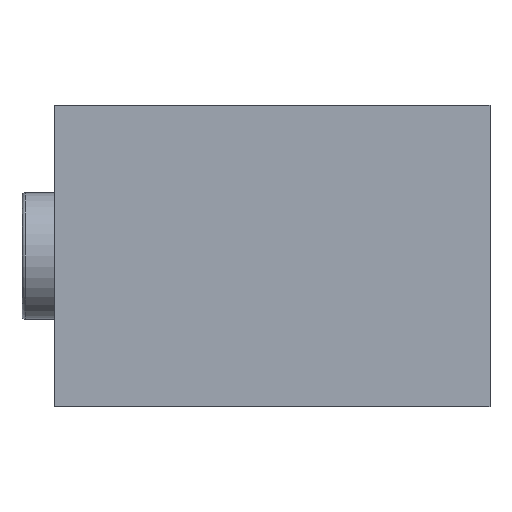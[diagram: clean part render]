
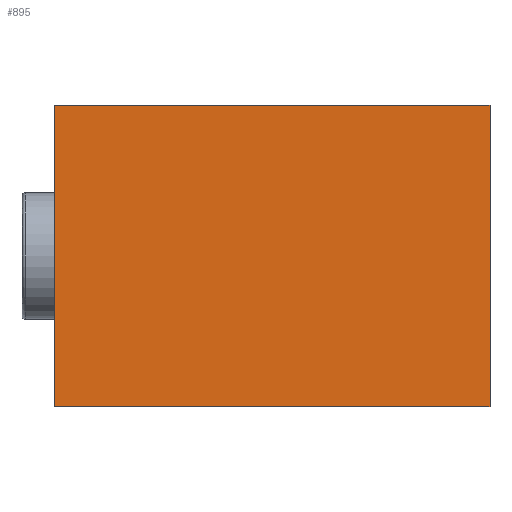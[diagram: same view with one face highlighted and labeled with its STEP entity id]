
A CAD part, front view. The second image highlights one B-rep face of the part: STEP entity #895.
In plain terms, the highlighted planar face has unit normal (0, -1, 0).
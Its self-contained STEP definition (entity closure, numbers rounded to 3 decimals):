
#118 = CARTESIAN_POINT ( 'NONE',  ( -32.5, 0., -22.5 ) ) ;
#193 = LINE ( 'NONE', #583, #1505 ) ;
#258 = DIRECTION ( 'NONE',  ( 1., 0., 0. ) ) ;
#400 = ORIENTED_EDGE ( 'NONE', *, *, #527, .F. ) ;
#404 = CARTESIAN_POINT ( 'NONE',  ( -32.5, 0., 22.5 ) ) ;
#519 = VERTEX_POINT ( 'NONE', #847 ) ;
#527 = EDGE_CURVE ( 'NONE', #1613, #519, #193, .T. ) ;
#583 = CARTESIAN_POINT ( 'NONE',  ( -32.5, 0., -22.5 ) ) ;
#745 = CARTESIAN_POINT ( 'NONE',  ( -32.5, 0., 22.5 ) ) ;
#847 = CARTESIAN_POINT ( 'NONE',  ( -32.5, 0., -22.5 ) ) ;
#890 = EDGE_LOOP ( 'NONE', ( #2108, #1770, #973, #400 ) ) ;
#895 = ADVANCED_FACE ( 'NONE', ( #2690 ), #1387, .F. ) ;
#912 = EDGE_CURVE ( 'NONE', #519, #1890, #989, .T. ) ;
#973 = ORIENTED_EDGE ( 'NONE', *, *, #912, .F. ) ;
#989 = LINE ( 'NONE', #118, #2286 ) ;
#1195 = CARTESIAN_POINT ( 'NONE',  ( 32.5, 0., -22.5 ) ) ;
#1333 = VERTEX_POINT ( 'NONE', #1567 ) ;
#1364 = CARTESIAN_POINT ( 'NONE',  ( 0., 0., 0. ) ) ;
#1375 = DIRECTION ( 'NONE',  ( 0., 1., 0. ) ) ;
#1385 = VECTOR ( 'NONE', #258, 1000. ) ;
#1387 = PLANE ( 'NONE',  #1809 ) ;
#1446 = CARTESIAN_POINT ( 'NONE',  ( 32.5, 0., -22.5 ) ) ;
#1505 = VECTOR ( 'NONE', #2040, 1000. ) ;
#1567 = CARTESIAN_POINT ( 'NONE',  ( 32.5, 0., 22.5 ) ) ;
#1602 = EDGE_CURVE ( 'NONE', #1333, #1613, #2467, .T. ) ;
#1613 = VERTEX_POINT ( 'NONE', #1195 ) ;
#1770 = ORIENTED_EDGE ( 'NONE', *, *, #2224, .F. ) ;
#1809 = AXIS2_PLACEMENT_3D ( 'NONE', #1364, #1375, #2803 ) ;
#1890 = VERTEX_POINT ( 'NONE', #404 ) ;
#2040 = DIRECTION ( 'NONE',  ( -1., 0., 0. ) ) ;
#2095 = LINE ( 'NONE', #745, #1385 ) ;
#2108 = ORIENTED_EDGE ( 'NONE', *, *, #1602, .F. ) ;
#2131 = VECTOR ( 'NONE', #3107, 1000. ) ;
#2224 = EDGE_CURVE ( 'NONE', #1890, #1333, #2095, .T. ) ;
#2286 = VECTOR ( 'NONE', #2294, 1000. ) ;
#2294 = DIRECTION ( 'NONE',  ( 0., 0., 1. ) ) ;
#2467 = LINE ( 'NONE', #1446, #2131 ) ;
#2690 = FACE_OUTER_BOUND ( 'NONE', #890, .T. ) ;
#2803 = DIRECTION ( 'NONE',  ( 0., 0., 1. ) ) ;
#3107 = DIRECTION ( 'NONE',  ( 0., 0., -1. ) ) ;
